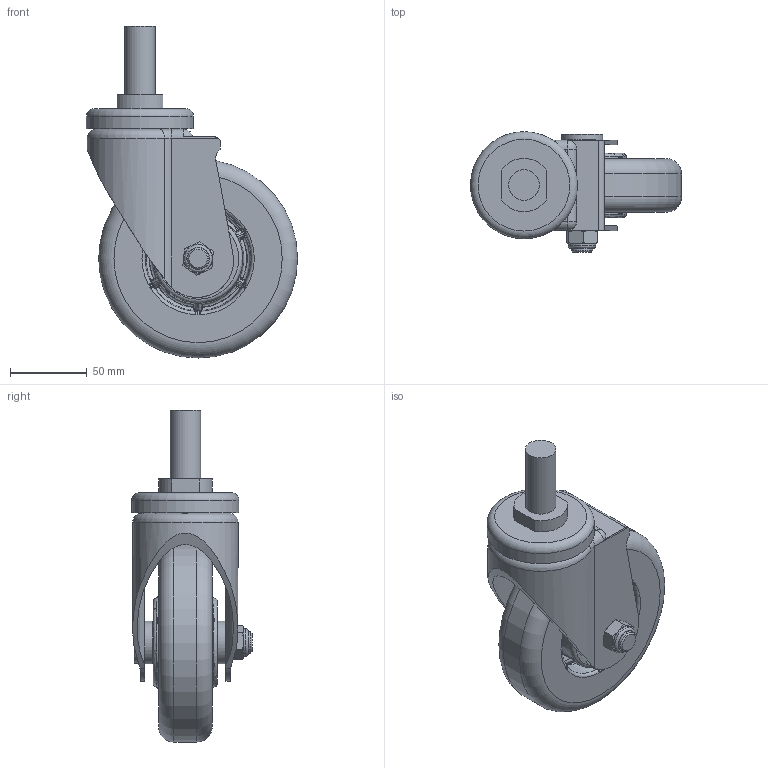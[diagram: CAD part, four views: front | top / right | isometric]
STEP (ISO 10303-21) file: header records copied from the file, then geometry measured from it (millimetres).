
FILE_DESCRIPTION(/* description */ (''),/* implementation_level */ '2;1');
FILE_NAME(/* name */ '25A23_5_F.stp',/* time_stamp */ '2022-08-27T13:09:57+08:00',/* author */ (''),/* organization */ (''),/* preprocessor_version */ 'ST-DEVELOPER v14',/* originating_system */ 'SIEMENS PLM Software NX 8.0',/* authorisation */ '');
FILE_SCHEMA (('AUTOMOTIVE_DESIGN { 1 0 10303 214 3 1 1 1 }'));
Length unit declared in the file: millimetre
Products named in the file (1): 25A23_5_F
Bounding box: 138 x 78.7 x 217 mm (x, y, z)
Volume: 541822.6 mm3; surface area: 126134.4 mm2
Topology: 1 solids, 1 shells, 737 faces, 1807 edges, 1111 vertices
Faces by surface type: plane 273, bspline 230, cylinder 127, cone 53, torus 50, sphere 3, extrusion 1
Full cylindrical faces by diameter (mm): 14 x1, 15 x2, 16 x1, 16.3 x1, 17 x1, 18 x1, 20 x1, 20.5 x1, 21 x1, 24.188 x3, 27 x1, 28 x2, 32.812 x2, 37.5 x1, 39.85 x2, 40 x2, 43.2 x1, 57 x1, 62.1 x1, 70 x1, 130 x1
Entity records: 24784 total; most frequent: CARTESIAN_POINT 9800, ORIENTED_EDGE 3436, DIRECTION 2580, EDGE_CURVE 1718, AXIS2_PLACEMENT_3D 1090, VERTEX_POINT 1081, EDGE_LOOP 847, ADVANCED_FACE 737
